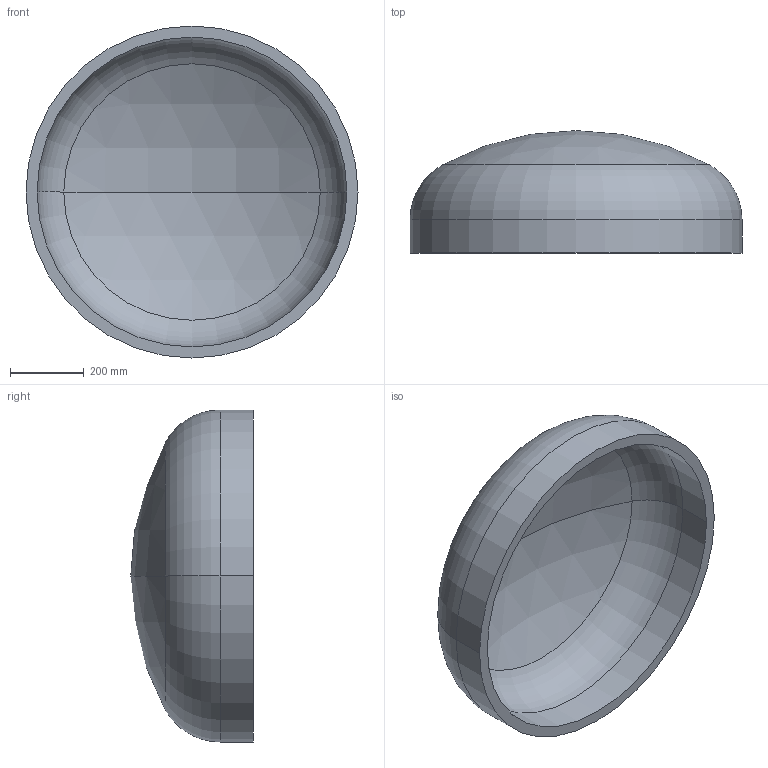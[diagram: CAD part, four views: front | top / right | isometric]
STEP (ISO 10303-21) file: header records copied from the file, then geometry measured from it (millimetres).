
FILE_DESCRIPTION (( 'STEP AP203' ), '1' );
FILE_NAME ('DIN 28013 Korbbogenform_-_Boden DIN 28013 - 900 x 90 - I - s=30.step', '2016-07-01T08:29:23', ( '' ), ( '' ), 'SwSTEP 2.0', 'SolidWorks 2013', '' );
FILE_SCHEMA (( 'CONFIG_CONTROL_DESIGN' ));
Length unit declared in the file: millimetre
Products named in the file (1): DIN 28013 Korbbogenform_-_Boden DIN 28013 - 900 x 90 - I - s=30
Bounding box: 900 x 332.06 x 900 mm (x, y, z)
Volume: 32740465.3 mm3; surface area: 2266577.6 mm2
Topology: 1 solids, 1 shells, 13 faces, 24 edges, 14 vertices
Faces by surface type: torus 4, cylinder 4, sphere 4, plane 1
Entity records: 407 total; most frequent: DIRECTION 72, CARTESIAN_POINT 52, ORIENTED_EDGE 48, AXIS2_PLACEMENT_3D 34, EDGE_CURVE 24, CIRCLE 20, EDGE_LOOP 14, VERTEX_POINT 14
